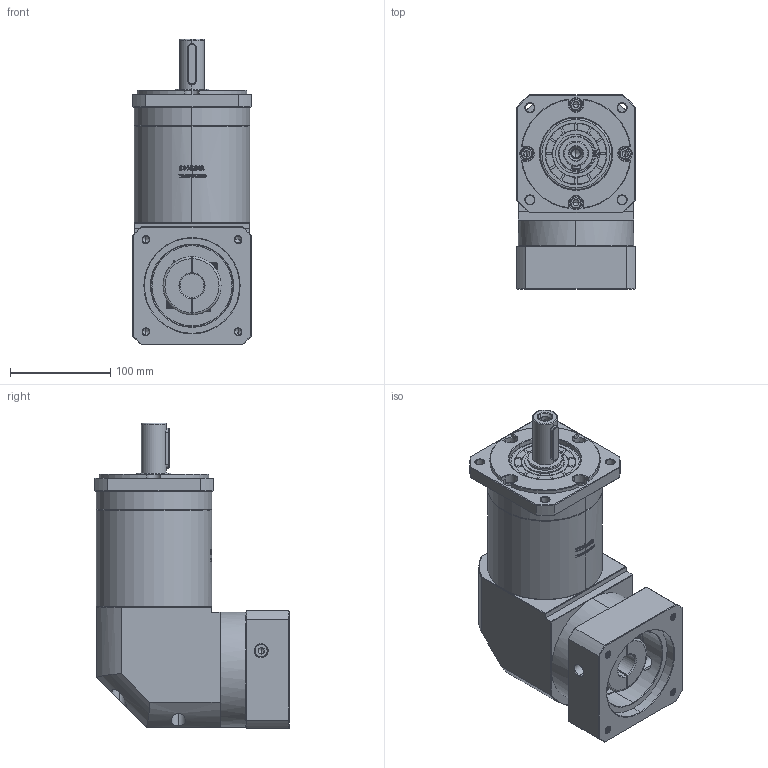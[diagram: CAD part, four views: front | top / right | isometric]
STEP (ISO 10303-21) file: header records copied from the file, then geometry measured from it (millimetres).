
FILE_DESCRIPTION (( 'STEP AP214' ), '1' );
FILE_NAME ('ZFR120A-D25-L3-24-95-130-M8.step', '2023-03-08T08:23:06', ( '' ), ( '' ), 'SwSTEP 2.0', 'SolidWorks 2016', '' );
FILE_SCHEMA (( 'AUTOMOTIVE_DESIGN' ));
Length unit declared in the file: millimetre
Products named in the file (1): ZFR120A-D25-L3-24-95-130-M8
Bounding box: 118 x 193.9 x 305 mm (x, y, z)
Volume: 3485934.6 mm3; surface area: 264354 mm2
Topology: 6 solids, 6 shells, 2870 faces, 7680 edges, 4955 vertices
Faces by surface type: plane 1484, bspline 606, cylinder 434, cone 338, torus 8
Entity records: 157859 total; most frequent: CARTESIAN_POINT 60446, ORIENTED_EDGE 15300, DIRECTION 11132, EDGE_CURVE 7650, VERTEX_POINT 4955, VECTOR 4750, LINE 4750, AXIS2_PLACEMENT_3D 3191
